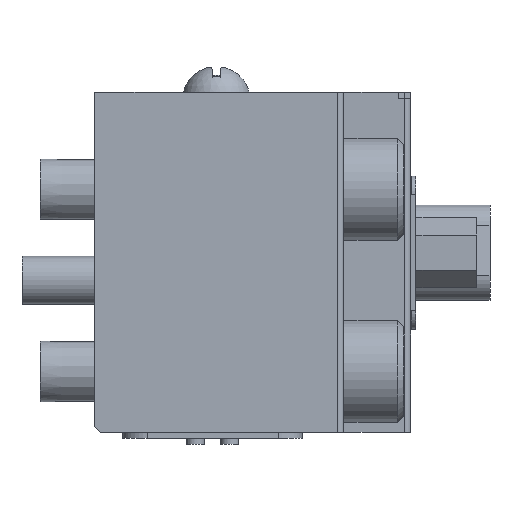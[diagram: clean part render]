
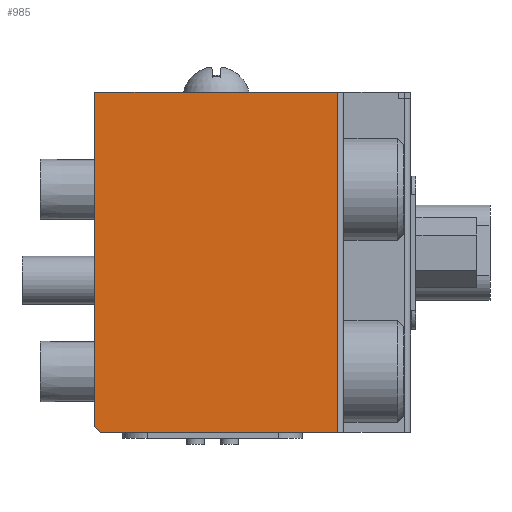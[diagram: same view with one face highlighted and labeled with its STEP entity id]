
A CAD part, left-side view. The second image highlights one B-rep face of the part: STEP entity #985.
In plain terms, the highlighted planar face has unit normal (-1, 0, 0).
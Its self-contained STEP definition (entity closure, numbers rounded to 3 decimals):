
#985=ADVANCED_FACE('',(#2093),#2094,.F.);
#2093=FACE_OUTER_BOUND('',#3592,.T.);
#2094=PLANE('',#3593);
#3592=EDGE_LOOP('',(#5347,#5348,#5349,#5350,#5351));
#3593=AXIS2_PLACEMENT_3D('',#5352,#5353,#5354);
#5347=ORIENTED_EDGE('',*,*,#8341,.F.);
#5348=ORIENTED_EDGE('',*,*,#8342,.T.);
#5349=ORIENTED_EDGE('',*,*,#8325,.T.);
#5350=ORIENTED_EDGE('',*,*,#8343,.F.);
#5351=ORIENTED_EDGE('',*,*,#8301,.T.);
#5352=CARTESIAN_POINT('',(-32.5,-26.0,-5.0));
#5353=DIRECTION('',(1.0,0.0,0.0));
#5354=DIRECTION('',(0.0,1.0,0.0));
#8301=EDGE_CURVE('',#9644,#9645,#9646,.T.);
#8325=EDGE_CURVE('',#9688,#9686,#9689,.T.);
#8341=EDGE_CURVE('',#9715,#9645,#9716,.T.);
#8342=EDGE_CURVE('',#9715,#9688,#9717,.T.);
#8343=EDGE_CURVE('',#9644,#9686,#9718,.T.);
#9644=VERTEX_POINT('',#11535);
#9645=VERTEX_POINT('',#11536);
#9646=LINE('',#11537,#11538);
#9686=VERTEX_POINT('',#11591);
#9688=VERTEX_POINT('',#11594);
#9689=LINE('',#11595,#11596);
#9715=VERTEX_POINT('',#11635);
#9716=LINE('',#11636,#11637);
#9717=LINE('',#11638,#11639);
#9718=LINE('',#11640,#11641);
#11535=CARTESIAN_POINT('',(-32.5,0.0,-4.5));
#11536=CARTESIAN_POINT('',(-32.5,-0.5,-5.0));
#11537=CARTESIAN_POINT('',(-32.5,-0.5,-5.0));
#11538=VECTOR('',#13721,1.0);
#11591=CARTESIAN_POINT('',(-32.5,0.0,23.0));
#11594=CARTESIAN_POINT('',(-32.5,-20.0,23.0));
#11595=CARTESIAN_POINT('',(-32.5,-26.0,23.0));
#11596=VECTOR('',#13751,1.0);
#11635=CARTESIAN_POINT('',(-32.5,-20.0,-5.0));
#11636=CARTESIAN_POINT('',(-32.5,-26.0,-5.0));
#11637=VECTOR('',#13768,1.0);
#11638=CARTESIAN_POINT('',(-32.5,-20.0,-5.0));
#11639=VECTOR('',#13769,1.0);
#11640=CARTESIAN_POINT('',(-32.5,0.0,-5.0));
#11641=VECTOR('',#13770,1.0);
#13721=DIRECTION('',(0.0,-0.707,-0.707));
#13751=DIRECTION('',(0.0,1.0,0.0));
#13768=DIRECTION('',(0.0,1.0,0.0));
#13769=DIRECTION('',(0.0,0.0,1.0));
#13770=DIRECTION('',(0.0,0.0,1.0));
